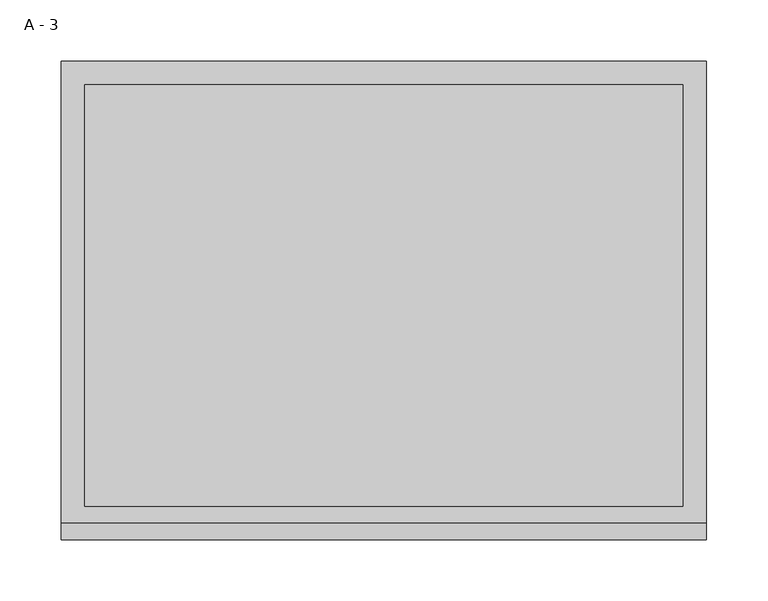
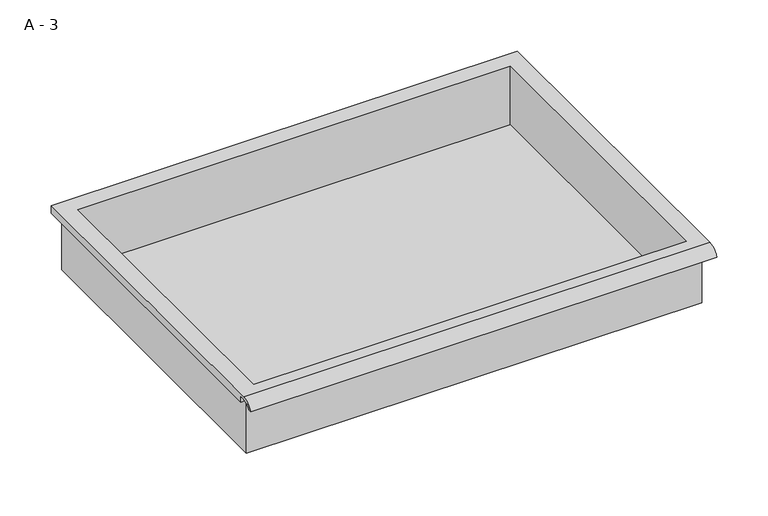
"""IFC4 building model written with IfcOpenShell, lengths in millimetres: furniture geometry, HermanMiller_CoStruc_CO207_Drawer : A - 3."""

from ifc_helpers import new_model, si_unit, frame, origin, place, context, project, spatial, polyline, circle_curve, source, transform, mapped, element, save
from ifc_brep_helpers import plane_surface, cylinder_surface, revolved_surface, advanced_brep


def a_3_3943aac6(model_context):
    return source(origin(), model_context, "Body", "AdvancedBrep", [
        advanced_brep(
        [(-257.1076517, -176.2125, 804.8752), (257.2423483, -176.2125, 804.8752), (257.2423483, -176.2125, 868.3752), (263.5923483, -176.2125, 868.3752), (263.5923483, -176.2125, 874.6823341), (-263.4576517, -176.2125, 874.6823341), (-263.4576517, -176.2125, 868.3752), (-257.1076517, -176.2125, 868.3752), (257.2423483, 185.7375, 804.8752), (-257.1076517, 185.7375, 804.8752), (-257.1076517, 185.7375, 868.3752), (257.2423483, 185.7375, 868.3752), (263.5923483, -181.6070544, 877.9002), (263.5923483, 195.2625, 877.9002), (-263.4576517, 195.2625, 877.9002), (-263.4576517, -181.6070544, 877.9002), (244.5423483, -168.275, 877.9002), (-244.4076517, -168.275, 877.9002), (-244.4076517, 176.2125, 877.9002), (244.5423483, 176.2125, 877.9002), (263.5923483, -195.2625, 868.3752), (263.5923483, -191.8280601, 868.3752), (263.5923483, -180.4714815, 874.6823341), (263.5923483, 195.2625, 868.3752), (-263.4576517, 195.2625, 868.3752), (-263.4576517, -180.4714815, 874.6823341), (-263.4576517, -191.8280601, 868.3752), (-263.4576517, -195.2625, 868.3752), (-244.4076517, -168.275, 807.9013719), (244.5423483, -168.275, 807.9013719), (244.5423483, 176.2125, 807.9013719), (-244.4076517, 176.2125, 807.9013719)],
        [
            (0, 1),
            (1, 2),
            (2, 3),
            (3, 4),
            (4, 5),
            (5, 6),
            (6, 7),
            (7, 0),
            (8, 9),
            (9, 10),
            (10, 11),
            (11, 8),
            (0, 9),
            (8, 1),
            (11, 2),
            (12, 13),
            (13, 14),
            (14, 15),
            (15, 12),
            (16, 17),
            (17, 18),
            (18, 19),
            (19, 16),
            (7, 10),
            (12, 20, circle_curve(frame((263.5923483, -181.6070544, 863.3491859), z_axis=(1.0, 0.0, 0.0), x_axis=(0.0, 1.0, 0.0)), 14.5510141)),
            (20, 21),
            (21, 22, circle_curve(frame((263.5923483, -181.6070544, 863.3491859), z_axis=(-1.0, 0.0, 0.0), x_axis=(0.0, 1.0, 0.0)), 11.3898979)),
            (22, 4),
            (3, 23),
            (23, 13),
            (14, 24),
            (24, 6),
            (5, 25),
            (25, 26, circle_curve(frame((-263.4576517, -181.6070544, 863.3491859), z_axis=(1.0, 0.0, 0.0), x_axis=(0.0, 1.0, 0.0)), 11.3898979)),
            (26, 27),
            (27, 15, circle_curve(frame((-263.4576517, -181.6070544, 863.3491859), z_axis=(-1.0, 0.0, 0.0), x_axis=(0.0, 1.0, 0.0)), 14.5510141)),
            (27, 20),
            (26, 21),
            (25, 22),
            (24, 23),
            (28, 29),
            (29, 30),
            (30, 31),
            (31, 28),
            (28, 17),
            (16, 29),
            (19, 30),
            (18, 31),
        ],
        [
            plane_surface(frame((257.2423483, -176.2125, 804.8752), z_axis=(0.0, -1.0, 0.0), x_axis=(1.0, 0.0, 0.0))),
            plane_surface(frame((257.2423483, 185.7375, 804.8752), z_axis=(0.0, 1.0, 0.0), x_axis=(-1.0, 0.0, 0.0))),
            plane_surface(frame((-257.1076517, -176.2125, 804.8752), z_axis=(0.0, 0.0, -1.0), x_axis=(0.0, 1.0, 0.0))),
            plane_surface(frame((257.2423483, -176.2125, 804.8752), z_axis=(1.0, 0.0, 0.0), x_axis=(0.0, 1.0, 0.0))),
            plane_surface(frame((257.2423483, -176.2125, 877.9002), z_axis=(0.0, 0.0, 1.0), x_axis=(0.0, 1.0, 0.0))),
            plane_surface(frame((-257.1076517, -176.2125, 877.9002), z_axis=(-1.0, 0.0, 0.0), x_axis=(0.0, 1.0, 0.0))),
            plane_surface(frame((263.5923483, 195.2625, 877.9002), z_axis=(1.0, 0.0, 0.0), x_axis=(0.0, -1.0, 0.0))),
            plane_surface(frame((-263.4576517, 195.2625, 877.9002), z_axis=(-1.0, 0.0, 0.0), x_axis=(0.0, 1.0, 0.0))),
            cylinder_surface(frame((-263.4576517, -181.6070544, 863.3491859), z_axis=(1.0, 0.0, 0.0), x_axis=(0.0, 1.0, 0.0)), 14.5510141),
            plane_surface(frame((263.5923483, -195.2625, 868.3752), z_axis=(0.0, -7.251821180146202e-12, -1.0), x_axis=(-1.0, 0.0, 0.0))),
            revolved_surface(polyline([(-263.4576517, -170.21715650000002, 863.3491859), (263.59234829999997, -170.21715650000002, 863.3491859)]), (-263.4576517, -181.6070544, 863.3491859), (-1.0, 0.0, 0.0)),
            plane_surface(frame((263.5923483, -180.4714815, 874.6823341), z_axis=(0.0, -1.7956755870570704e-11, -1.0), x_axis=(-1.0, 0.0, 0.0))),
            plane_surface(frame((263.5923483, -176.2125, 868.3752), z_axis=(0.0, 0.0, -1.0), x_axis=(-1.0, 0.0, 0.0))),
            plane_surface(frame((263.5923483, 195.2625, 868.3752), z_axis=(0.0, 1.0, 0.0), x_axis=(-1.0, 0.0, 0.0))),
            plane_surface(frame((244.5423483, -168.275, 807.9013719), z_axis=(0.0, 0.0, 1.0), x_axis=(-1.0, 0.0, 0.0))),
            plane_surface(frame((-244.4076517, -168.275, 877.9002), z_axis=(0.0, 1.0, 0.0), x_axis=(0.0, 0.0, -1.0))),
            plane_surface(frame((244.5423483, -168.275, 877.9002), z_axis=(-1.0, 0.0, 0.0), x_axis=(0.0, 0.0, -1.0))),
            plane_surface(frame((244.5423483, 176.2125, 877.9002), z_axis=(0.0, -1.0, 0.0), x_axis=(0.0, 0.0, -1.0))),
            plane_surface(frame((-244.4076517, 176.2125, 877.9002), z_axis=(1.0, 0.0, 0.0), x_axis=(0.0, 0.0, -1.0))),
        ],
        [
            (0, [[1, 2, 3, 4, 5, 6, 7, 8]]),
            (1, [[9, 10, 11, 12]]),
            (2, [[-1, 13, -9, 14]]),
            (3, [[-14, -12, 15, -2]]),
            (4, [[16, 17, 18, 19], [20, 21, 22, 23]]),
            (5, [[-13, -8, 24, -10]]),
            (6, [[-16, 25, 26, 27, 28, -4, 29, 30]]),
            (7, [[31, 32, -6, 33, 34, 35, 36, -18]]),
            (8, [[-25, -19, -36, 37]]),
            (9, [[-26, -37, -35, 38]]),
            (10, [[-27, -38, -34, 39]]),
            (11, [[-28, -39, -33, -5]]),
            (12, [[-29, -3, -15, -11, -24, -7, -32, 40]]),
            (13, [[-30, -40, -31, -17]]),
            (14, [[41, 42, 43, 44]]),
            (15, [[-41, 45, -20, 46]]),
            (16, [[-42, -46, -23, 47]]),
            (17, [[-43, -47, -22, 48]]),
            (18, [[-44, -48, -21, -45]]),
        ],
    ),
    ])


if __name__ == "__main__":
    model = new_model("IFC4")
    model_context = context("Model", 3, world=origin())
    ifc_project = project(units=[si_unit("LENGTHUNIT", "METRE", prefix="MILLI")], contexts=[model_context])
    site = spatial("IfcSite", under=ifc_project)
    building = spatial("IfcBuilding", under=site)
    placement = place(None, origin())
    a_3_shape = a_3_3943aac6(model_context)
    element("IfcFurniture", 1, ObjectType="HermanMiller_CoStruc_CO207_Drawer : A - 3", at=placement, inside=building, context=model_context, shape_type="MappedRepresentation", body=[
        mapped(a_3_shape, transform((0.0, 0.0, 0.0), x_axis=(1.0, 0.0, 0.0), y_axis=(0.0, 1.0, 0.0), z_axis=(0.0, 0.0, 1.0))),
    ])
    save(model, "model.ifc")
